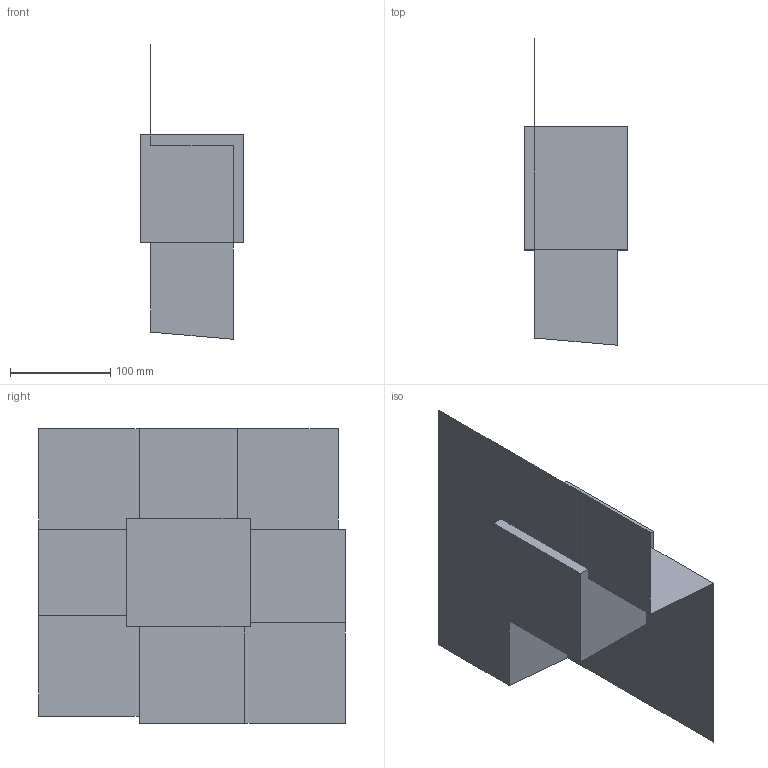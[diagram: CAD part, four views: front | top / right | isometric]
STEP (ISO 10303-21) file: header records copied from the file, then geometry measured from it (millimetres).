
FILE_DESCRIPTION(('CATIA V5 STEP Exchange'),'2;1');
FILE_NAME('C:\_Andres\UNIVERSIDAD\IQS\ASIGNATURAS\DAO\EXF\EXF-15161c\1original\Martínez_Perelló_Ej02-moldes_v13.stp','2016-03-04T15:45:38+00:00',('none'),('none'),'CATIA Version 5 Release 20 SP 1 (IN-10)','CATIA V5 STEP AP203','none');
FILE_SCHEMA(('CONFIG_CONTROL_DESIGN'));
Length unit declared in the file: millimetre
Products named in the file (1): Martínez_Perelló_Ej02-moldes_v13
Bounding box: 103 x 305.61 x 293.61 mm (x, y, z)
Volume: 2903340.2 mm3; surface area: 343058.2 mm2
Topology: 3 solids, 7 shells, 45 faces, 118 edges, 83 vertices
Faces by surface type: plane 41, cylinder 4
Entity records: 1101 total; most frequent: ORIENTED_EDGE 198, CARTESIAN_POINT 179, DIRECTION 147, EDGE_CURVE 83, VECTOR 73, LINE 73, VERTEX_POINT 56, EDGE_LOOP 49
